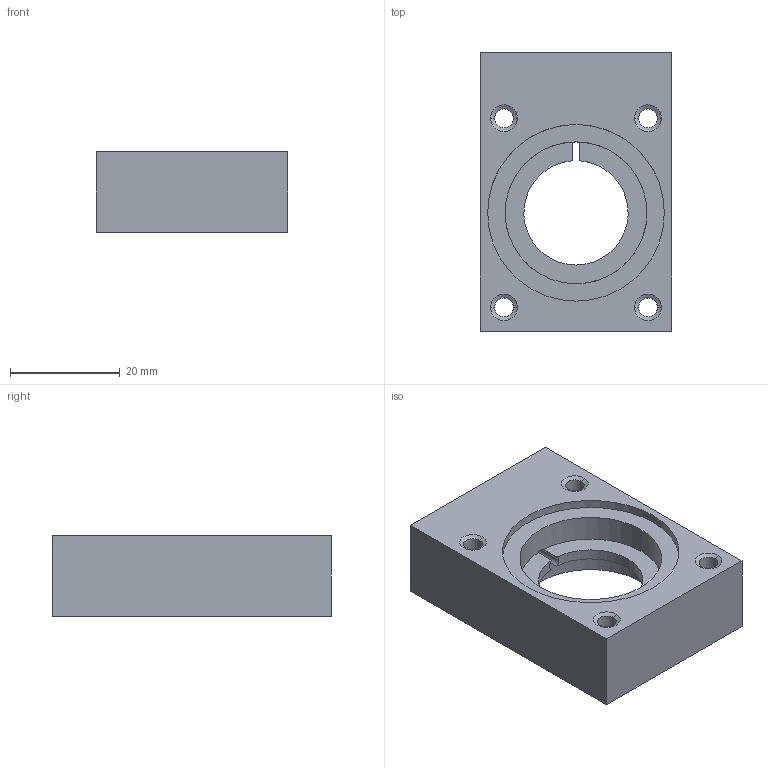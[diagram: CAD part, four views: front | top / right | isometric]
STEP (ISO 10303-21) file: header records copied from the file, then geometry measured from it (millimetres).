
FILE_DESCRIPTION(('Creo Elements/Direct Modeling STEP Export'),'2;1');
FILE_NAME('003-1367(2) (Ti 2mm body).stp','2018-12-12T16:37:58',(''),(''),'Creo Elements/Direct Modeling STEP processor for AP214 (Solid Model)','Creo Elements/Direct Modeling 20.1 10-Mar-2018 (C) Parametric Technology GmbH','');
FILE_SCHEMA(('AUTOMOTIVE_DESIGN { 1 0 10303 214 1 1 1 1 }'));
Length unit declared in the file: millimetre
Products named in the file (2): cg_2mmcell_body
Assembly tree (1 placements, depth 2):
  cg_2mmcell_body
    cg_2mmcell_body
Bounding box: 34.92 x 50.8 x 14.73 mm (x, y, z)
Volume: 17152.8 mm3; surface area: 7521.7 mm2
Topology: 1 solids, 1 shells, 100 faces, 1209 edges, 1150 vertices
Faces by surface type: plane 49, cylinder 27, cone 24
Entity records: 11709 total; most frequent: CARTESIAN_POINT 2670, ORIENTED_EDGE 2414, DIRECTION 1323, EDGE_CURVE 1207, VERTEX_POINT 1150, VECTOR 1129, LINE 1129, EDGE_LOOP 153
